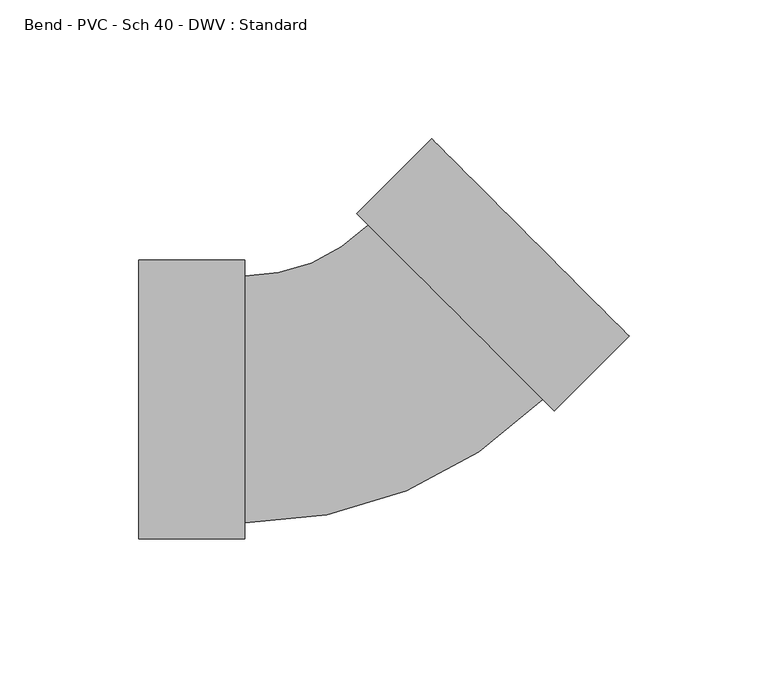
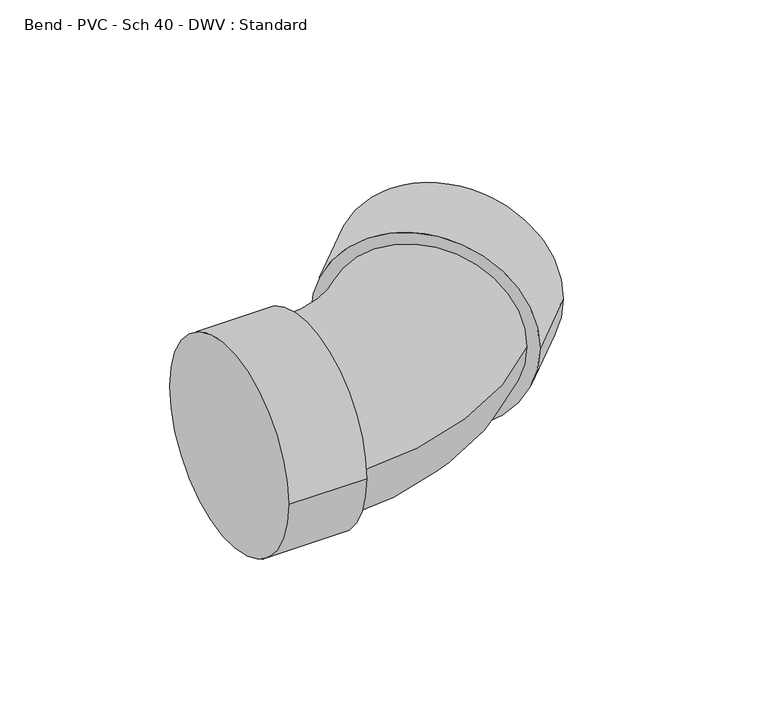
"""IFC4 building model written with IfcOpenShell, lengths in millimetres: pipe fitting geometry, Bend - PVC - Sch 40 - DWV : Standard."""

from ifc_helpers import new_model, si_unit, point, frame, origin, place, context, project, spatial, circle_curve, ellipse_curve, trimmed, source, transform, mapped, element, save
from ifc_brep_helpers import plane_surface, cylinder_surface, revolved_surface, advanced_brep


def bend_pvc_sch_40_dwv_standard_7a4cf5ce(model_context):
    return source(origin(), model_context, "Body", "AdvancedBrep", [
        advanced_brep(
        [(-82.55, -50.2666, 0.0), (-82.55, 50.2666, 0.0), (-44.45, -50.2666, 0.0), (-44.45, 50.2666, 0.0), (-44.45, -44.45, 0.0), (-44.45, 44.45, 0.0), (0.012421, 62.8617916, 0.0), (62.8617916, -0.012421, 0.0), (66.9739362, -4.1261909, 0.0), (-4.0997236, 66.9755615, 0.0), (93.9200273, 22.8092537, 0.0), (22.8463676, 93.9110061, 0.0)],
        [
            (0, 1, circle_curve(frame((-82.55, 0.0, 0.0), z_axis=(-1.0, 0.0, 0.0), x_axis=(0.0, 1.0, 0.0)), 50.2666)),
            (1, 0, circle_curve(frame((-82.55, 0.0, 0.0), z_axis=(-1.0, 0.0, 0.0), x_axis=(0.0, 1.0, 0.0)), 50.2666)),
            (2, 3, circle_curve(frame((-44.45, 0.0, 0.0), z_axis=(1.0, 0.0, 0.0), x_axis=(0.0, 1.0, 0.0)), 50.2666)),
            (3, 2, circle_curve(frame((-44.45, 0.0, 0.0), z_axis=(1.0, 0.0, 0.0), x_axis=(0.0, 1.0, 0.0)), 50.2666)),
            (4, 5, circle_curve(frame((-44.45, 0.0, 0.0), z_axis=(-1.0, 0.0, 0.0), x_axis=(0.0, 1.0, 0.0)), 44.45)),
            (5, 4, circle_curve(frame((-44.45, 0.0, 0.0), z_axis=(-1.0, 0.0, 0.0), x_axis=(0.0, 1.0, 0.0)), 44.45)),
            (0, 2),
            (3, 1),
            (6, 5, circle_curve(frame((-44.45, 107.3417869, 0.0), z_axis=(0.0, 0.0, -1.0), x_axis=(0.0, -1.0, 0.0)), 62.8917869)),
            (4, 7, circle_curve(frame((-44.45, 107.3417869, 0.0), z_axis=(0.0, 0.0, 1.0), x_axis=(0.0, -1.0, 0.0)), 151.7917869)),
            (7, 6, circle_curve(frame((31.4371063, 31.4246853, 0.0), z_axis=(-0.7072464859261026, -0.7069670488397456, 0.0), x_axis=(-0.7069670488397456, 0.7072464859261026, 0.0)), 44.45)),
            (6, 7, circle_curve(frame((31.4371063, 31.4246853, 0.0), z_axis=(-0.7072464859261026, -0.7069670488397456, 0.0), x_axis=(-0.7069670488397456, 0.7072464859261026, 0.0)), 44.45)),
            (8, 9, circle_curve(frame((31.4371063, 31.4246853, 0.0), z_axis=(-0.7072464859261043, -0.7069670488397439, 0.0), x_axis=(-0.7069670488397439, 0.7072464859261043, 0.0)), 50.2666)),
            (9, 8, circle_curve(frame((31.4371063, 31.4246853, 0.0), z_axis=(-0.7072464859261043, -0.7069670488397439, 0.0), x_axis=(-0.7069670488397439, 0.7072464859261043, 0.0)), 50.2666)),
            (10, 11, circle_curve(frame((58.3831974, 58.3601299, 0.0), z_axis=(0.7072464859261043, 0.7069670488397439, 0.0), x_axis=(-0.7069670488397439, 0.7072464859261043, 0.0)), 50.2666)),
            (11, 10, circle_curve(frame((58.3831974, 58.3601299, 0.0), z_axis=(0.7072464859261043, 0.7069670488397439, 0.0), x_axis=(-0.7069670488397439, 0.7072464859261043, 0.0)), 50.2666)),
            (8, 10),
            (11, 9),
        ],
        [
            plane_surface(frame((-82.55, 0.0, 0.0), z_axis=(-1.0, 0.0, 0.0), x_axis=(0.0, 0.0, 1.0))),
            plane_surface(frame((-44.45, 0.0, 0.0), z_axis=(1.0, 0.0, 0.0), x_axis=(0.0, 0.0, 1.0))),
            cylinder_surface(frame((-82.55, 0.0, 0.0), z_axis=(-1.0, 0.0, 0.0), x_axis=(0.0, 1.0, 0.0)), 50.2666),
            revolved_surface(trimmed(ellipse_curve(frame((-44.45, 0.0, 0.0), z_axis=(-1.0, 0.0, 0.0), x_axis=(0.0, 1.0, 0.0)), 44.45, 44.45), [point((-44.45, -44.45, 0.0))], [point((-44.45, 44.45, 0.0))], True, "CARTESIAN"), (-44.45, 107.3417869, 0.0), (0.0, 0.0, 1.0)),
            revolved_surface(trimmed(ellipse_curve(frame((-44.45, 0.0, 0.0), z_axis=(-1.0, 0.0, 0.0), x_axis=(0.0, 1.0, 0.0)), 44.45, 44.45), [point((-44.45, 44.45, 0.0))], [point((-44.45, -44.45, 0.0))], True, "CARTESIAN"), (-44.45, 107.3417869, 0.0), (0.0, 0.0, 1.0)),
            plane_surface(frame((31.4371063, 31.4246853, 0.0), z_axis=(-0.7072464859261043, -0.7069670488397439, 0.0), x_axis=(0.0, 0.0, 1.0))),
            plane_surface(frame((58.3831974, 58.3601299, 0.0), z_axis=(0.7072464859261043, 0.7069670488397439, 0.0), x_axis=(0.0, 0.0, 1.0))),
            cylinder_surface(frame((31.4371063, 31.4246853, 0.0), z_axis=(-0.7072464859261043, -0.7069670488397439, 0.0), x_axis=(-0.7069670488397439, 0.7072464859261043, 0.0)), 50.2666),
        ],
        [
            (0, [[1, 2]]),
            (1, [[3, 4], [5, 6]]),
            (2, [[-1, 7, -4, 8]]),
            (2, [[-2, -8, -3, -7]]),
            (3, [[9, -5, 10, 11]]),
            (4, [[-9, 12, -10, -6]]),
            (5, [[13, 14], [-11, -12]]),
            (6, [[15, 16]]),
            (7, [[-13, 17, -16, 18]]),
            (7, [[-14, -18, -15, -17]]),
        ],
    ),
    ])


if __name__ == "__main__":
    model = new_model("IFC4")
    model_context = context("Model", 3, world=origin())
    ifc_project = project(units=[si_unit("LENGTHUNIT", "METRE", prefix="MILLI")], contexts=[model_context])
    site = spatial("IfcSite", under=ifc_project)
    building = spatial("IfcBuilding", under=site)
    placement = place(None, origin())
    bend_pvc_sch_40_dwv_standard_shape = bend_pvc_sch_40_dwv_standard_7a4cf5ce(model_context)
    element("IfcPipeFitting", 1, ObjectType="Bend - PVC - Sch 40 - DWV : Standard", at=placement, inside=building, context=model_context, shape_type="MappedRepresentation", body=[
        mapped(bend_pvc_sch_40_dwv_standard_shape, transform((0.0, 0.0, 0.0), x_axis=(1.0, 0.0, 0.0), y_axis=(0.0, 1.0, 0.0), z_axis=(0.0, 0.0, 1.0))),
    ])
    save(model, "model.ifc")
